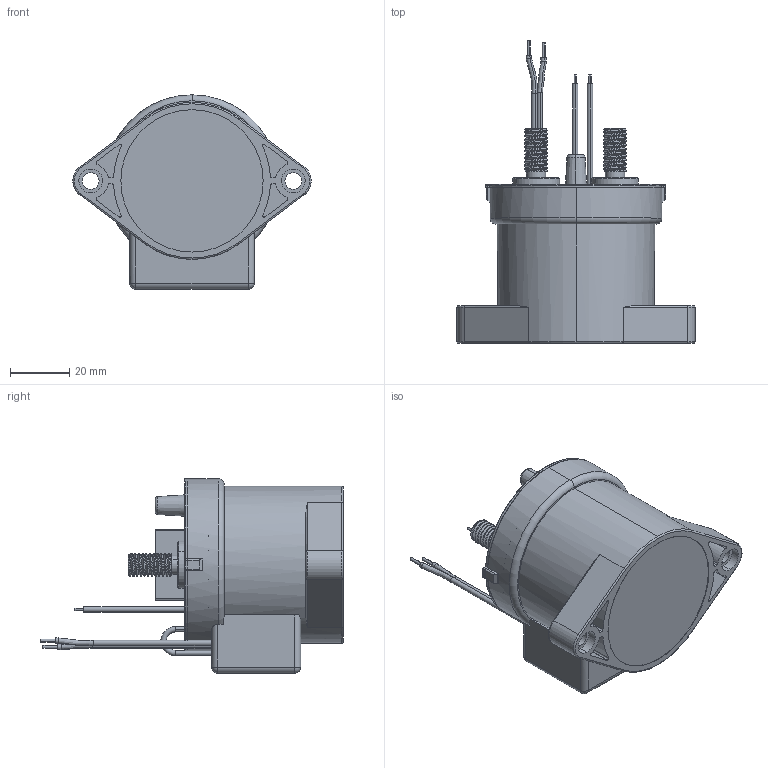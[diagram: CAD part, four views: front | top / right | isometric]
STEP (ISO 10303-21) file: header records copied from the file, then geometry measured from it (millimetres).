
FILE_DESCRIPTION((''),'2;1');
FILE_NAME('PRT0003','2024-11-05T15:32:41',('pc'),(''),'CREO PARAMETRIC BY PTC INC, 2018100','CREO PARAMETRIC BY PTC INC, 2018100','');
FILE_SCHEMA(('CONFIG_CONTROL_DESIGN'));
Length unit declared in the file: millimetre
Products named in the file (1): PRT0003
Bounding box: 80.26 x 102.07 x 65.5 mm (x, y, z)
Surface area: 50348.8 mm2 (no closed solid volume)
Topology: 0 solids, 12 shells, 613 faces, 1540 edges, 995 vertices
Faces by surface type: cylinder 276, plane 242, torus 50, cone 25, bspline 10, extrusion 6, sphere 4
Entity records: 32037 total; most frequent: CARTESIAN_POINT 17125, DIRECTION 3133, ORIENTED_EDGE 3072, EDGE_CURVE 1536, AXIS2_PLACEMENT_3D 1176, VERTEX_POINT 995, VECTOR 781, LINE 775
